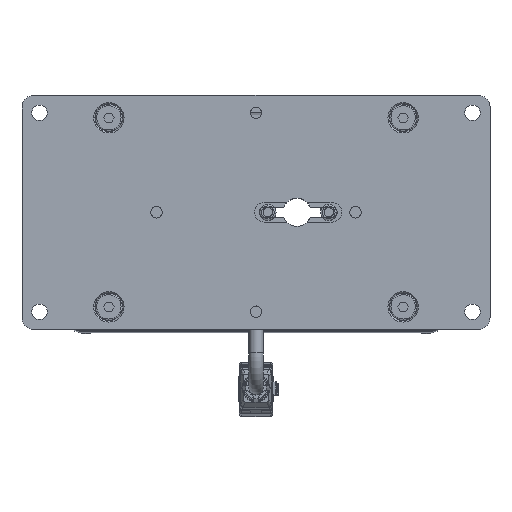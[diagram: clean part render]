
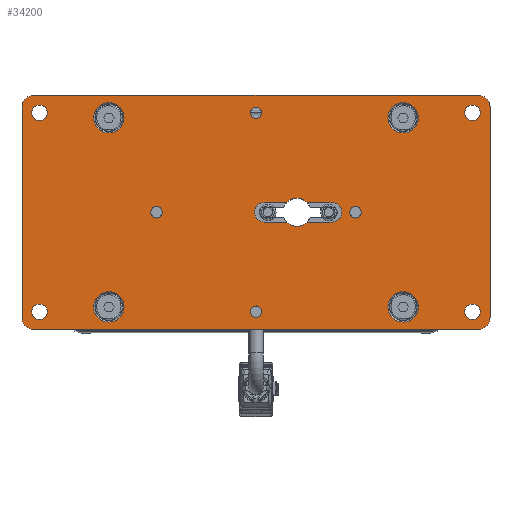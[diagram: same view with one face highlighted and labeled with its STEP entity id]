
A CAD part, top view. The second image highlights one B-rep face of the part: STEP entity #34200.
In plain terms, the highlighted planar face has unit normal (0, 0, 1).
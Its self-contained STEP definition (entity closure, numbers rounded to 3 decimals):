
#1247=LINE('',#46622,#3687);
#1248=LINE('',#46626,#3688);
#1249=LINE('',#46630,#3689);
#1250=LINE('',#46634,#3690);
#1251=LINE('',#46635,#3691);
#1252=LINE('',#46640,#3692);
#1253=LINE('',#46644,#3693);
#1254=LINE('',#46645,#3694);
#3687=VECTOR('',#38953,1000.);
#3688=VECTOR('',#38956,1000.);
#3689=VECTOR('',#38959,1000.);
#3690=VECTOR('',#38962,1000.);
#3691=VECTOR('',#38963,1000.);
#3692=VECTOR('',#38966,1000.);
#3693=VECTOR('',#38969,1000.);
#3694=VECTOR('',#38970,1000.);
#6543=ORIENTED_EDGE('',*,*,#13939,.F.);
#6544=ORIENTED_EDGE('',*,*,#13940,.F.);
#6545=ORIENTED_EDGE('',*,*,#13941,.F.);
#6546=ORIENTED_EDGE('',*,*,#13942,.F.);
#6547=ORIENTED_EDGE('',*,*,#13943,.T.);
#6548=ORIENTED_EDGE('',*,*,#13944,.T.);
#6549=ORIENTED_EDGE('',*,*,#13945,.T.);
#6550=ORIENTED_EDGE('',*,*,#13946,.T.);
#6551=ORIENTED_EDGE('',*,*,#13947,.F.);
#6552=ORIENTED_EDGE('',*,*,#13948,.F.);
#6553=ORIENTED_EDGE('',*,*,#13949,.F.);
#6554=ORIENTED_EDGE('',*,*,#13950,.F.);
#6555=ORIENTED_EDGE('',*,*,#13951,.T.);
#6556=ORIENTED_EDGE('',*,*,#13952,.T.);
#6557=ORIENTED_EDGE('',*,*,#13953,.T.);
#6558=ORIENTED_EDGE('',*,*,#13954,.T.);
#6559=ORIENTED_EDGE('',*,*,#13955,.T.);
#6560=ORIENTED_EDGE('',*,*,#13956,.T.);
#6561=ORIENTED_EDGE('',*,*,#13957,.T.);
#6562=ORIENTED_EDGE('',*,*,#13958,.T.);
#6563=ORIENTED_EDGE('',*,*,#13959,.F.);
#6564=ORIENTED_EDGE('',*,*,#13960,.T.);
#6565=ORIENTED_EDGE('',*,*,#13961,.F.);
#6566=ORIENTED_EDGE('',*,*,#13962,.T.);
#6567=ORIENTED_EDGE('',*,*,#13963,.T.);
#6568=ORIENTED_EDGE('',*,*,#13932,.T.);
#6569=ORIENTED_EDGE('',*,*,#13964,.T.);
#6570=ORIENTED_EDGE('',*,*,#13965,.T.);
#13932=EDGE_CURVE('',#17691,#17689,#20153,.T.);
#13939=EDGE_CURVE('',#17697,#17697,#20157,.T.);
#13940=EDGE_CURVE('',#17698,#17698,#20158,.T.);
#13941=EDGE_CURVE('',#17699,#17699,#20159,.T.);
#13942=EDGE_CURVE('',#17700,#17700,#20160,.T.);
#13943=EDGE_CURVE('',#17701,#17701,#20161,.T.);
#13944=EDGE_CURVE('',#17702,#17702,#20162,.T.);
#13945=EDGE_CURVE('',#17703,#17703,#20163,.T.);
#13946=EDGE_CURVE('',#17704,#17704,#20164,.T.);
#13947=EDGE_CURVE('',#17705,#17705,#20165,.T.);
#13948=EDGE_CURVE('',#17706,#17706,#20166,.T.);
#13949=EDGE_CURVE('',#17707,#17707,#20167,.T.);
#13950=EDGE_CURVE('',#17708,#17708,#20168,.T.);
#13951=EDGE_CURVE('',#17709,#17710,#20169,.T.);
#13952=EDGE_CURVE('',#17710,#17711,#1247,.T.);
#13953=EDGE_CURVE('',#17711,#17712,#20170,.T.);
#13954=EDGE_CURVE('',#17712,#17713,#1248,.T.);
#13955=EDGE_CURVE('',#17713,#17714,#20171,.T.);
#13956=EDGE_CURVE('',#17714,#17715,#1249,.T.);
#13957=EDGE_CURVE('',#17715,#17716,#20172,.T.);
#13958=EDGE_CURVE('',#17716,#17709,#1250,.T.);
#13959=EDGE_CURVE('',#17717,#17718,#1251,.T.);
#13960=EDGE_CURVE('',#17717,#17719,#20173,.T.);
#13961=EDGE_CURVE('',#17720,#17719,#1252,.T.);
#13962=EDGE_CURVE('',#17720,#17721,#20174,.T.);
#13963=EDGE_CURVE('',#17721,#17691,#1253,.T.);
#13964=EDGE_CURVE('',#17689,#17722,#1254,.T.);
#13965=EDGE_CURVE('',#17722,#17718,#20175,.T.);
#17689=VERTEX_POINT('',#46579);
#17691=VERTEX_POINT('',#46582);
#17697=VERTEX_POINT('',#46596);
#17698=VERTEX_POINT('',#46598);
#17699=VERTEX_POINT('',#46600);
#17700=VERTEX_POINT('',#46602);
#17701=VERTEX_POINT('',#46604);
#17702=VERTEX_POINT('',#46606);
#17703=VERTEX_POINT('',#46608);
#17704=VERTEX_POINT('',#46610);
#17705=VERTEX_POINT('',#46612);
#17706=VERTEX_POINT('',#46614);
#17707=VERTEX_POINT('',#46616);
#17708=VERTEX_POINT('',#46618);
#17709=VERTEX_POINT('',#46620);
#17710=VERTEX_POINT('',#46621);
#17711=VERTEX_POINT('',#46623);
#17712=VERTEX_POINT('',#46625);
#17713=VERTEX_POINT('',#46627);
#17714=VERTEX_POINT('',#46629);
#17715=VERTEX_POINT('',#46631);
#17716=VERTEX_POINT('',#46633);
#17717=VERTEX_POINT('',#46636);
#17718=VERTEX_POINT('',#46637);
#17719=VERTEX_POINT('',#46639);
#17720=VERTEX_POINT('',#46641);
#17721=VERTEX_POINT('',#46643);
#17722=VERTEX_POINT('',#46646);
#20153=CIRCLE('',#35862,6.);
#20157=CIRCLE('',#35867,2.459);
#20158=CIRCLE('',#35868,2.459);
#20159=CIRCLE('',#35869,2.459);
#20160=CIRCLE('',#35870,2.459);
#20161=CIRCLE('',#35871,6.5);
#20162=CIRCLE('',#35872,6.5);
#20163=CIRCLE('',#35873,6.5);
#20164=CIRCLE('',#35874,6.5);
#20165=CIRCLE('',#35875,3.3);
#20166=CIRCLE('',#35876,3.3);
#20167=CIRCLE('',#35877,3.3);
#20168=CIRCLE('',#35878,3.3);
#20169=CIRCLE('',#35879,5.);
#20170=CIRCLE('',#35880,5.);
#20171=CIRCLE('',#35881,5.);
#20172=CIRCLE('',#35882,5.);
#20173=CIRCLE('',#35883,6.);
#20174=CIRCLE('',#35884,4.15);
#20175=CIRCLE('',#35885,4.15);
#21342=EDGE_LOOP('',(#6543));
#21343=EDGE_LOOP('',(#6544));
#21344=EDGE_LOOP('',(#6545));
#21345=EDGE_LOOP('',(#6546));
#21346=EDGE_LOOP('',(#6547));
#21347=EDGE_LOOP('',(#6548));
#21348=EDGE_LOOP('',(#6549));
#21349=EDGE_LOOP('',(#6550));
#21350=EDGE_LOOP('',(#6551));
#21351=EDGE_LOOP('',(#6552));
#21352=EDGE_LOOP('',(#6553));
#21353=EDGE_LOOP('',(#6554));
#21354=EDGE_LOOP('',(#6555,#6556,#6557,#6558,#6559,#6560,#6561,#6562));
#21355=EDGE_LOOP('',(#6563,#6564,#6565,#6566,#6567,#6568,#6569,#6570));
#23106=FACE_BOUND('',#21342,.T.);
#23107=FACE_BOUND('',#21343,.T.);
#23108=FACE_BOUND('',#21344,.T.);
#23109=FACE_BOUND('',#21345,.T.);
#23110=FACE_BOUND('',#21346,.T.);
#23111=FACE_BOUND('',#21347,.T.);
#23112=FACE_BOUND('',#21348,.T.);
#23113=FACE_BOUND('',#21349,.T.);
#23114=FACE_BOUND('',#21350,.T.);
#23115=FACE_BOUND('',#21351,.T.);
#23116=FACE_BOUND('',#21352,.T.);
#23117=FACE_BOUND('',#21353,.T.);
#23118=FACE_BOUND('',#21354,.T.);
#23119=FACE_BOUND('',#21355,.T.);
#24774=PLANE('',#35866);
#34200=ADVANCED_FACE('',(#23106,#23107,#23108,#23109,#23110,#23111,#23112,
#23113,#23114,#23115,#23116,#23117,#23118,#23119),#24774,.T.);
#35862=AXIS2_PLACEMENT_3D('',#46581,#38914,#38915);
#35866=AXIS2_PLACEMENT_3D('',#46594,#38925,#38926);
#35867=AXIS2_PLACEMENT_3D('',#46595,#38927,#38928);
#35868=AXIS2_PLACEMENT_3D('',#46597,#38929,#38930);
#35869=AXIS2_PLACEMENT_3D('',#46599,#38931,#38932);
#35870=AXIS2_PLACEMENT_3D('',#46601,#38933,#38934);
#35871=AXIS2_PLACEMENT_3D('',#46603,#38935,#38936);
#35872=AXIS2_PLACEMENT_3D('',#46605,#38937,#38938);
#35873=AXIS2_PLACEMENT_3D('',#46607,#38939,#38940);
#35874=AXIS2_PLACEMENT_3D('',#46609,#38941,#38942);
#35875=AXIS2_PLACEMENT_3D('',#46611,#38943,#38944);
#35876=AXIS2_PLACEMENT_3D('',#46613,#38945,#38946);
#35877=AXIS2_PLACEMENT_3D('',#46615,#38947,#38948);
#35878=AXIS2_PLACEMENT_3D('',#46617,#38949,#38950);
#35879=AXIS2_PLACEMENT_3D('',#46619,#38951,#38952);
#35880=AXIS2_PLACEMENT_3D('',#46624,#38954,#38955);
#35881=AXIS2_PLACEMENT_3D('',#46628,#38957,#38958);
#35882=AXIS2_PLACEMENT_3D('',#46632,#38960,#38961);
#35883=AXIS2_PLACEMENT_3D('',#46638,#38964,#38965);
#35884=AXIS2_PLACEMENT_3D('',#46642,#38967,#38968);
#35885=AXIS2_PLACEMENT_3D('',#46647,#38971,#38972);
#38914=DIRECTION('',(0.,0.,-1.));
#38915=DIRECTION('',(1.,0.,0.));
#38925=DIRECTION('',(0.,0.,1.));
#38926=DIRECTION('',(1.,0.,0.));
#38927=DIRECTION('',(0.,0.,1.));
#38928=DIRECTION('',(1.,0.,0.));
#38929=DIRECTION('',(0.,0.,1.));
#38930=DIRECTION('',(1.,0.,0.));
#38931=DIRECTION('',(0.,0.,1.));
#38932=DIRECTION('',(1.,0.,0.));
#38933=DIRECTION('',(0.,0.,1.));
#38934=DIRECTION('',(1.,0.,0.));
#38935=DIRECTION('',(0.,0.,-1.));
#38936=DIRECTION('',(1.,0.,0.));
#38937=DIRECTION('',(0.,0.,-1.));
#38938=DIRECTION('',(1.,0.,0.));
#38939=DIRECTION('',(0.,0.,-1.));
#38940=DIRECTION('',(1.,0.,0.));
#38941=DIRECTION('',(0.,0.,-1.));
#38942=DIRECTION('',(1.,0.,0.));
#38943=DIRECTION('',(0.,0.,1.));
#38944=DIRECTION('',(1.,0.,0.));
#38945=DIRECTION('',(0.,0.,1.));
#38946=DIRECTION('',(1.,0.,0.));
#38947=DIRECTION('',(0.,0.,1.));
#38948=DIRECTION('',(1.,0.,0.));
#38949=DIRECTION('',(0.,0.,1.));
#38950=DIRECTION('',(1.,0.,0.));
#38951=DIRECTION('',(0.,0.,1.));
#38952=DIRECTION('',(1.,0.,0.));
#38953=DIRECTION('',(1.,0.,0.));
#38954=DIRECTION('',(0.,0.,1.));
#38955=DIRECTION('',(-1.,0.,0.));
#38956=DIRECTION('',(0.,1.,0.));
#38957=DIRECTION('',(0.,0.,1.));
#38958=DIRECTION('',(1.,0.,0.));
#38959=DIRECTION('',(-1.,0.,0.));
#38960=DIRECTION('',(0.,0.,1.));
#38961=DIRECTION('',(1.,0.,0.));
#38962=DIRECTION('',(0.,-1.,0.));
#38963=DIRECTION('',(1.,0.,0.));
#38964=DIRECTION('',(0.,0.,-1.));
#38965=DIRECTION('',(1.,0.,0.));
#38966=DIRECTION('',(1.,0.,0.));
#38967=DIRECTION('',(0.,0.,-1.));
#38968=DIRECTION('',(0.,-1.,0.));
#38969=DIRECTION('',(1.,0.,0.));
#38970=DIRECTION('',(1.,0.,0.));
#38971=DIRECTION('',(0.,0.,-1.));
#38972=DIRECTION('',(0.,1.,0.));
#46579=CARTESIAN_POINT('',(21.833,4.15,8.));
#46581=CARTESIAN_POINT('',(17.5,0.,8.));
#46582=CARTESIAN_POINT('',(13.167,4.15,8.));
#46594=CARTESIAN_POINT('',(-95.,-45.,8.));
#46595=CARTESIAN_POINT('',(0.,-42.5,8.));
#46596=CARTESIAN_POINT('',(2.459,-42.5,8.));
#46597=CARTESIAN_POINT('',(42.5,0.,8.));
#46598=CARTESIAN_POINT('',(44.959,0.,8.));
#46599=CARTESIAN_POINT('',(0.,42.5,8.));
#46600=CARTESIAN_POINT('',(2.459,42.5,8.));
#46601=CARTESIAN_POINT('',(-42.5,0.,8.));
#46602=CARTESIAN_POINT('',(-40.042,0.,8.));
#46603=CARTESIAN_POINT('',(-62.9,-40.4,8.));
#46604=CARTESIAN_POINT('',(-56.4,-40.4,8.));
#46605=CARTESIAN_POINT('',(62.9,-40.4,8.));
#46606=CARTESIAN_POINT('',(69.4,-40.4,8.));
#46607=CARTESIAN_POINT('',(62.9,40.4,8.));
#46608=CARTESIAN_POINT('',(69.4,40.4,8.));
#46609=CARTESIAN_POINT('',(-62.9,40.4,8.));
#46610=CARTESIAN_POINT('',(-56.4,40.4,8.));
#46611=CARTESIAN_POINT('',(-92.5,-42.5,8.));
#46612=CARTESIAN_POINT('',(-89.2,-42.5,8.));
#46613=CARTESIAN_POINT('',(92.5,-42.5,8.));
#46614=CARTESIAN_POINT('',(95.8,-42.5,8.));
#46615=CARTESIAN_POINT('',(92.5,42.5,8.));
#46616=CARTESIAN_POINT('',(95.8,42.5,8.));
#46617=CARTESIAN_POINT('',(-92.5,42.5,8.));
#46618=CARTESIAN_POINT('',(-89.2,42.5,8.));
#46619=CARTESIAN_POINT('',(-95.,-45.,8.));
#46620=CARTESIAN_POINT('',(-100.,-45.,8.));
#46621=CARTESIAN_POINT('',(-95.,-50.,8.));
#46622=CARTESIAN_POINT('',(-95.,-50.,8.));
#46623=CARTESIAN_POINT('',(95.,-50.,8.));
#46624=CARTESIAN_POINT('',(95.,-45.,8.));
#46625=CARTESIAN_POINT('',(100.,-45.,8.));
#46626=CARTESIAN_POINT('',(100.,-45.,8.));
#46627=CARTESIAN_POINT('',(100.,45.,8.));
#46628=CARTESIAN_POINT('',(95.,45.,8.));
#46629=CARTESIAN_POINT('',(95.,50.,8.));
#46630=CARTESIAN_POINT('',(95.,50.,8.));
#46631=CARTESIAN_POINT('',(-95.,50.,8.));
#46632=CARTESIAN_POINT('',(-95.,45.,8.));
#46633=CARTESIAN_POINT('',(-100.,45.,8.));
#46634=CARTESIAN_POINT('',(-100.,45.,8.));
#46635=CARTESIAN_POINT('',(3.5,-4.15,8.));
#46636=CARTESIAN_POINT('',(21.833,-4.15,8.));
#46637=CARTESIAN_POINT('',(32.5,-4.15,8.));
#46638=CARTESIAN_POINT('',(17.5,0.,8.));
#46639=CARTESIAN_POINT('',(13.167,-4.15,8.));
#46640=CARTESIAN_POINT('',(3.5,-4.15,8.));
#46641=CARTESIAN_POINT('',(3.5,-4.15,8.));
#46642=CARTESIAN_POINT('',(3.5,0.,8.));
#46643=CARTESIAN_POINT('',(3.5,4.15,8.));
#46644=CARTESIAN_POINT('',(3.5,4.15,8.));
#46645=CARTESIAN_POINT('',(3.5,4.15,8.));
#46646=CARTESIAN_POINT('',(32.5,4.15,8.));
#46647=CARTESIAN_POINT('',(32.5,0.,8.));
